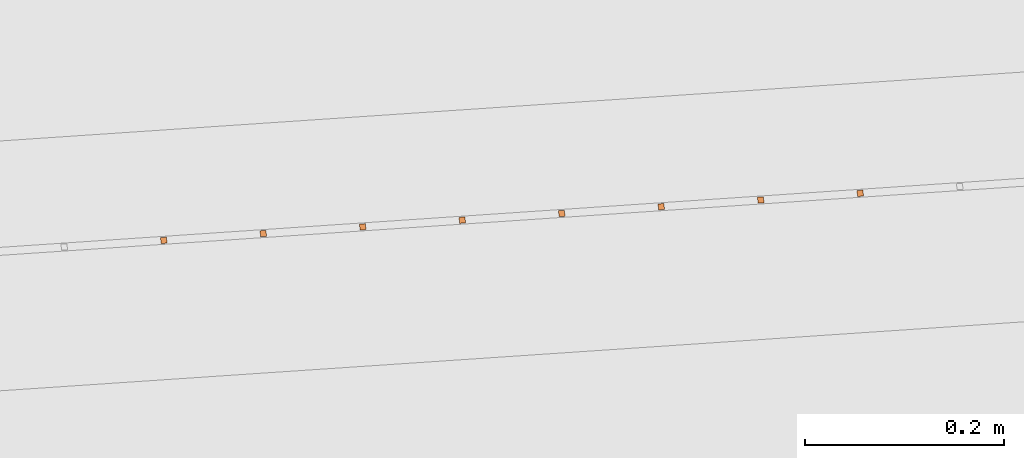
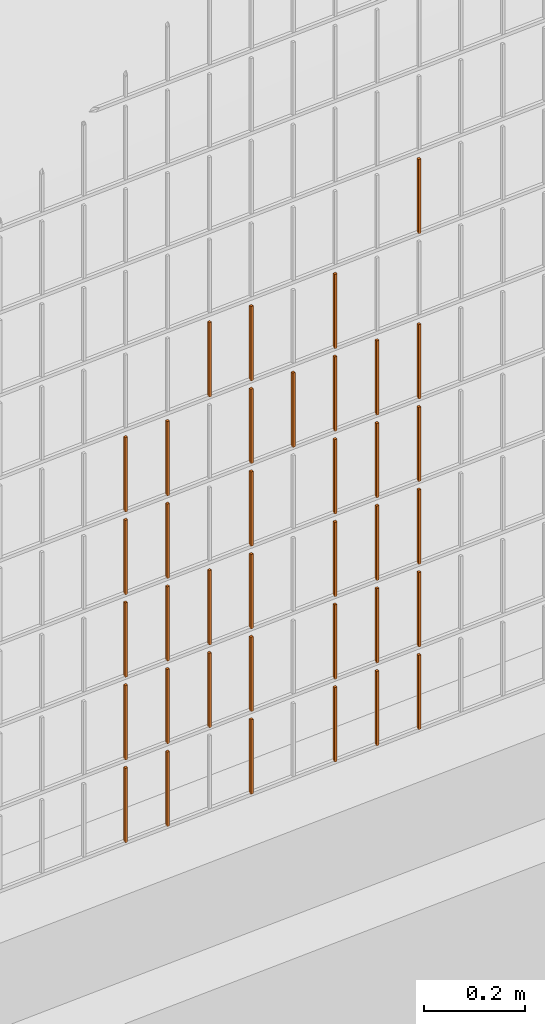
# One storey, part 205 of 1809: 37 proxies, 1 element without a shape of its own.
"""IFC2X3 building model written with IfcOpenShell, lengths in millimetres."""

from ifc_helpers import new_model, entity, si_unit, converted_unit, derived_unit, money_unit, direction, frame, origin_with_axes, place, context, subcontext, project, spatial, faceted_brep, source, transform, mapped, material, type_object, element, aggregate, save


model = new_model("IFC2X3")

# Units and contexts
model_context = context("Model", 3, precision=0.01, world=origin_with_axes(), true_north=direction((0.0, 1.0)))
body_context = subcontext(model_context, "Body", "Model", "MODEL_VIEW")
ifc_project = project(units=[si_unit("LENGTHUNIT", "METRE", prefix="MILLI"), si_unit("AREAUNIT", "SQUARE_METRE"), si_unit("VOLUMEUNIT", "CUBIC_METRE"), converted_unit("PLANEANGLEUNIT", "DEGREE", entity("IfcPlaneAngleMeasure", 0.0174532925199), si_unit("PLANEANGLEUNIT", "RADIAN"), dimensions=[0, 0, 0, 0, 0, 0, 0]), si_unit("SOLIDANGLEUNIT", "STERADIAN"), money_unit("EUR"), converted_unit("TIMEUNIT", "Year", entity("IfcTimeMeasure", 31556926.0), si_unit("TIMEUNIT", "SECOND"), dimensions=[0, 0, 1, 0, 0, 0, 0]), si_unit("MASSUNIT", "GRAM", prefix="KILO"), si_unit("THERMODYNAMICTEMPERATUREUNIT", "DEGREE_CELSIUS"), si_unit("LUMINOUSINTENSITYUNIT", "LUMEN"), si_unit("ENERGYUNIT", "JOULE", prefix="MEGA"), derived_unit("THERMALCONDUCTANCEUNIT", [(si_unit("POWERUNIT", "WATT"), 1), (si_unit("LENGTHUNIT", "METRE"), -1), (si_unit("THERMODYNAMICTEMPERATUREUNIT", "KELVIN"), -1)]), derived_unit("SPECIFICHEATCAPACITYUNIT", [(si_unit("ENERGYUNIT", "JOULE"), 1), (si_unit("MASSUNIT", "GRAM", prefix="KILO"), -1), (si_unit("THERMODYNAMICTEMPERATUREUNIT", "KELVIN"), -1)]), derived_unit("MASSDENSITYUNIT", [(si_unit("MASSUNIT", "GRAM", prefix="KILO"), 1), (si_unit("VOLUMEUNIT", "CUBIC_METRE"), -1)])], contexts=[model_context])

# Site, building, storey
site_placement = place(None, origin_with_axes())
site = spatial("IfcSite", under=ifc_project, at=site_placement, Name="Politse- ja Piirivalveameti ning Päästeameti ühishoone", CompositionType="ELEMENT")
building_placement = place(site_placement, origin_with_axes())
building = spatial("IfcBuilding", under=site, at=building_placement, Name="Politse- ja Piirivalveameti ning Päästeameti ühishoone", CompositionType="ELEMENT")
storey_placement = place(building_placement, origin_with_axes())
storey = spatial("IfcBuildingStorey", under=building, at=storey_placement, Name="Esimene korrus", CompositionType="ELEMENT", Elevation=0.0)

# Proxies
building_element_proxy_type_1 = type_object("IfcBuildingElementProxyType", Name="Railing Type", PredefinedType="NOTDEFINED")
proxy_1_placement = place(storey_placement, frame((89252.001212, -29183.4766571, 203.661247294), z_axis=(0.0, 0.0, 1.0), x_axis=(1.0, 0.0, 0.0)))
proxy_1 = element("IfcBuildingElementProxy", 1, at=proxy_1_placement, inside=storey, type_object=building_element_proxy_type_1, Name="PIIRDEAED")
ifc_material = material(Name="ET-03_Raud")
building_element_proxy_type_2 = type_object("IfcBuildingElementProxyType", Name="IfcBuildingElementProxy", PredefinedType="NOTDEFINED")
shared_shape_1 = source(origin_with_axes(), body_context, "Body", "Brep", [
    faceted_brep([(3.0, 3.0, -0.000752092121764), (-3.0, 3.0, -0.000752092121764), (-3.0, 3.0, 179.99926046), (3.0, 3.0, 179.99926046), (3.0, -3.0, 0.000752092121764), (-3.0, -3.0, 0.000752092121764), (-3.0, -3.0, 180.000764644), (3.0, -3.0, 180.000764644)], [[[0, 1, 2, 3]], [[0, 4, 5, 1]], [[1, 5, 6, 2]], [[3, 2, 6, 7]], [[4, 0, 3, 7]], [[5, 4, 7, 6]]]),
])
proxy_2_placement = place(proxy_1_placement, frame((-63282.489312, -21572.2680951, 11.3334813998), z_axis=(0.0, 0.0, 1.0), x_axis=(1.0, 0.0, 0.0)))
proxy_2 = element("IfcBuildingElementProxy", 2, at=proxy_2_placement, type_object=building_element_proxy_type_2, material=ifc_material, Name="BALUSTER - 001", context=body_context, shape_type="MappedRepresentation", body=[
    mapped(shared_shape_1, transform((0.0, 0.0, 0.0), x_axis=(-0.0673926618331, 0.997726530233, 0.0), y_axis=(-0.997726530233, -0.0673926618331, 0.0), z_axis=(0.0, 0.0, 1.0))),
])
shared_shape_2 = source(origin_with_axes(), body_context, "Body", "Brep", [
    faceted_brep([(3.0, 3.0, -0.000752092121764), (-3.0, 3.0, -0.000752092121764), (-3.0, 3.0, 179.99926046), (3.0, 3.0, 179.99926046), (3.0, -3.0, 0.000752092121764), (-3.0, -3.0, 0.000752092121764), (-3.0, -3.0, 180.000764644), (3.0, -3.0, 180.000764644)], [[[0, 1, 2, 3]], [[0, 4, 5, 1]], [[1, 5, 6, 2]], [[3, 2, 6, 7]], [[4, 0, 3, 7]], [[5, 4, 7, 6]]]),
])
proxy_3_placement = place(proxy_1_placement, frame((-63282.489312, -21572.2680951, 211.3334814), z_axis=(0.0, 0.0, 1.0), x_axis=(1.0, 0.0, 0.0)))
proxy_3 = element("IfcBuildingElementProxy", 3, at=proxy_3_placement, type_object=building_element_proxy_type_2, material=ifc_material, Name="BALUSTER - 001", context=body_context, shape_type="MappedRepresentation", body=[
    mapped(shared_shape_2, transform((0.0, 0.0, 0.0), x_axis=(-0.0673926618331, 0.997726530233, 0.0), y_axis=(-0.997726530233, -0.0673926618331, 0.0), z_axis=(0.0, 0.0, 1.0))),
])
proxy_4_placement = place(proxy_1_placement, frame((-63282.489312, -21572.2680951, 411.3334814), z_axis=(0.0, 0.0, 1.0), x_axis=(1.0, 0.0, 0.0)))
proxy_4 = element("IfcBuildingElementProxy", 4, at=proxy_4_placement, type_object=building_element_proxy_type_2, material=ifc_material, Name="BALUSTER - 001", context=body_context, shape_type="MappedRepresentation", body=[
    mapped(shared_shape_2, transform((0.0, 0.0, 0.0), x_axis=(-0.0673926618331, 0.997726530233, 0.0), y_axis=(-0.997726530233, -0.0673926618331, 0.0), z_axis=(0.0, 0.0, 1.0))),
])
proxy_5_placement = place(proxy_1_placement, frame((-63282.489312, -21572.2680951, 611.3334814), z_axis=(0.0, 0.0, 1.0), x_axis=(1.0, 0.0, 0.0)))
proxy_5 = element("IfcBuildingElementProxy", 5, at=proxy_5_placement, type_object=building_element_proxy_type_2, material=ifc_material, Name="BALUSTER - 001", context=body_context, shape_type="MappedRepresentation", body=[
    mapped(shared_shape_2, transform((0.0, 0.0, 0.0), x_axis=(-0.0673926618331, 0.997726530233, 0.0), y_axis=(-0.997726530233, -0.0673926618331, 0.0), z_axis=(0.0, 0.0, 1.0))),
])
shared_shape_3 = source(origin_with_axes(), body_context, "Body", "Brep", [
    faceted_brep([(3.0, 3.0, -0.000752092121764), (-3.0, 3.0, -0.000752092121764), (-3.0, 3.0, 179.99926046), (3.0, 3.0, 179.99926046), (3.0, -3.0, 0.000752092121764), (-3.0, -3.0, 0.000752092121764), (-3.0, -3.0, 180.000764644), (3.0, -3.0, 180.000764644)], [[[0, 1, 2, 3]], [[0, 4, 5, 1]], [[1, 5, 6, 2]], [[3, 2, 6, 7]], [[4, 0, 3, 7]], [[5, 4, 7, 6]]]),
])
proxy_6_placement = place(proxy_1_placement, frame((-63282.489312, -21572.2680951, 811.3334814), z_axis=(0.0, 0.0, 1.0), x_axis=(1.0, 0.0, 0.0)))
proxy_6 = element("IfcBuildingElementProxy", 6, at=proxy_6_placement, type_object=building_element_proxy_type_2, material=ifc_material, Name="BALUSTER - 001", context=body_context, shape_type="MappedRepresentation", body=[
    mapped(shared_shape_3, transform((0.0, 0.0, 0.0), x_axis=(-0.0673926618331, 0.997726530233, 0.0), y_axis=(-0.997726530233, -0.0673926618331, 0.0), z_axis=(0.0, 0.0, 1.0))),
])
shared_shape_4 = source(origin_with_axes(), body_context, "Body", "Brep", [
    faceted_brep([(3.0, 3.0, -0.000752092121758), (-3.0, 3.0, -0.000752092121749), (-3.00000000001, 3.0, 179.99926046), (2.99999999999, 3.0, 179.99926046), (3.0, -3.0, 0.000752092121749), (-3.0, -3.0, 0.000752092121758), (-3.00000000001, -3.0, 180.000764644), (2.99999999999, -3.0, 180.000764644)], [[[0, 1, 2, 3]], [[0, 4, 5, 1]], [[1, 5, 6, 2]], [[3, 2, 6, 7]], [[4, 0, 3, 7]], [[5, 4, 7, 6]]]),
])
proxy_7_placement = place(proxy_1_placement, frame((-63681.5799241, -21599.2251599, 1011.23320245), z_axis=(0.0, 0.0, 1.0), x_axis=(1.0, 0.0, 0.0)))
proxy_7 = element("IfcBuildingElementProxy", 7, at=proxy_7_placement, type_object=building_element_proxy_type_2, material=ifc_material, Name="BALUSTER - 001", context=body_context, shape_type="MappedRepresentation", body=[
    mapped(shared_shape_4, transform((0.0, 0.0, 0.0), x_axis=(-0.0673926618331, 0.997726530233, 0.0), y_axis=(-0.997726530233, -0.0673926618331, 0.0), z_axis=(0.0, 0.0, 1.0))),
])
shared_shape_5 = source(origin_with_axes(), body_context, "Body", "Brep", [
    faceted_brep([(3.0, 3.0, -0.000752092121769), (-3.0, 3.0, -0.00075209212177), (-3.0, 3.0, 179.99926046), (3.0, 3.0, 179.99926046), (3.0, -3.0, 0.00075209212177), (-3.0, -3.0, 0.000752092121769), (-3.0, -3.0, 180.000764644), (3.0, -3.0, 180.000764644)], [[[0, 1, 2, 3]], [[0, 4, 5, 1]], [[1, 5, 6, 2]], [[3, 2, 6, 7]], [[4, 0, 3, 7]], [[5, 4, 7, 6]]]),
])
proxy_8_placement = place(proxy_1_placement, frame((-63681.5799241, -21599.2251599, 411.23320245), z_axis=(0.0, 0.0, 1.0), x_axis=(1.0, 0.0, 0.0)))
proxy_8 = element("IfcBuildingElementProxy", 8, at=proxy_8_placement, type_object=building_element_proxy_type_2, material=ifc_material, Name="BALUSTER - 001", context=body_context, shape_type="MappedRepresentation", body=[
    mapped(shared_shape_5, transform((0.0, 0.0, 0.0), x_axis=(-0.0673926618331, 0.997726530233, 0.0), y_axis=(-0.997726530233, -0.0673926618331, 0.0), z_axis=(0.0, 0.0, 1.0))),
])
shared_shape_6 = source(origin_with_axes(), body_context, "Body", "Brep", [
    faceted_brep([(3.0, 3.0, -0.000752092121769), (-3.0, 3.0, -0.00075209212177), (-3.0, 3.0, 179.99926046), (3.0, 3.0, 179.99926046), (3.0, -3.0, 0.00075209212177), (-3.0, -3.0, 0.000752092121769), (-3.0, -3.0, 180.000764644), (3.0, -3.0, 180.000764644)], [[[0, 1, 2, 3]], [[0, 4, 5, 1]], [[1, 5, 6, 2]], [[3, 2, 6, 7]], [[4, 0, 3, 7]], [[5, 4, 7, 6]]]),
])
proxy_9_placement = place(proxy_1_placement, frame((-63681.5799241, -21599.2251599, 211.23320245), z_axis=(0.0, 0.0, 1.0), x_axis=(1.0, 0.0, 0.0)))
proxy_9 = element("IfcBuildingElementProxy", 9, at=proxy_9_placement, type_object=building_element_proxy_type_2, material=ifc_material, Name="BALUSTER - 001", context=body_context, shape_type="MappedRepresentation", body=[
    mapped(shared_shape_6, transform((0.0, 0.0, 0.0), x_axis=(-0.0673926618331, 0.997726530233, 0.0), y_axis=(-0.997726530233, -0.0673926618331, 0.0), z_axis=(0.0, 0.0, 1.0))),
])
shared_shape_7 = source(origin_with_axes(), body_context, "Body", "Brep", [
    faceted_brep([(3.0, 3.0, -0.000752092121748), (-3.0, 3.0, -0.00075209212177), (-3.0, 3.0, 179.99926046), (3.0, 3.0, 179.99926046), (3.0, -3.0, 0.00075209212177), (-3.0, -3.0, 0.000752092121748), (-3.0, -3.0, 180.000764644), (3.0, -3.0, 180.000764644)], [[[0, 1, 2, 3]], [[0, 4, 5, 1]], [[1, 5, 6, 2]], [[3, 2, 6, 7]], [[4, 0, 3, 7]], [[5, 4, 7, 6]]]),
])
proxy_10_placement = place(proxy_1_placement, frame((-63382.261965, -21579.0073613, 11.3084116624), z_axis=(0.0, 0.0, 1.0), x_axis=(1.0, 0.0, 0.0)))
proxy_10 = element("IfcBuildingElementProxy", 10, at=proxy_10_placement, type_object=building_element_proxy_type_2, material=ifc_material, Name="BALUSTER - 001", context=body_context, shape_type="MappedRepresentation", body=[
    mapped(shared_shape_7, transform((0.0, 0.0, 0.0), x_axis=(-0.0673926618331, 0.997726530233, 0.0), y_axis=(-0.997726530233, -0.0673926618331, 0.0), z_axis=(0.0, 0.0, 1.0))),
])
shared_shape_8 = source(origin_with_axes(), body_context, "Body", "Brep", [
    faceted_brep([(3.0, 3.0, -0.000752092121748), (-3.0, 3.0, -0.00075209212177), (-3.0, 3.0, 179.99926046), (3.0, 3.0, 179.99926046), (3.0, -3.0, 0.00075209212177), (-3.0, -3.0, 0.000752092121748), (-3.0, -3.0, 180.000764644), (3.0, -3.0, 180.000764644)], [[[0, 1, 2, 3]], [[0, 4, 5, 1]], [[1, 5, 6, 2]], [[3, 2, 6, 7]], [[4, 0, 3, 7]], [[5, 4, 7, 6]]]),
])
proxy_11_placement = place(proxy_1_placement, frame((-63382.261965, -21579.0073613, 611.308411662), z_axis=(0.0, 0.0, 1.0), x_axis=(1.0, 0.0, 0.0)))
proxy_11 = element("IfcBuildingElementProxy", 11, at=proxy_11_placement, type_object=building_element_proxy_type_2, material=ifc_material, Name="BALUSTER - 001", context=body_context, shape_type="MappedRepresentation", body=[
    mapped(shared_shape_8, transform((0.0, 0.0, 0.0), x_axis=(-0.0673926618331, 0.997726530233, 0.0), y_axis=(-0.997726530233, -0.0673926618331, 0.0), z_axis=(0.0, 0.0, 1.0))),
])
shared_shape_9 = source(origin_with_axes(), body_context, "Body", "Brep", [
    faceted_brep([(3.0, 3.0, -0.000752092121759), (-3.0, 3.0, -0.000752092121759), (-3.0, 3.0, 179.99926046), (3.0, 3.0, 179.99926046), (3.0, -3.0, 0.000752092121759), (-3.0, -3.0, 0.000752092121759), (-3.0, -3.0, 180.000764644), (3.0, -3.0, 180.000764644)], [[[0, 1, 2, 3]], [[0, 4, 5, 1]], [[1, 5, 6, 2]], [[3, 2, 6, 7]], [[4, 0, 3, 7]], [[5, 4, 7, 6]]]),
])
proxy_12_placement = place(proxy_1_placement, frame((-63781.3525771, -21605.964426, 211.208132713), z_axis=(0.0, 0.0, 1.0), x_axis=(1.0, 0.0, 0.0)))
proxy_12 = element("IfcBuildingElementProxy", 12, at=proxy_12_placement, type_object=building_element_proxy_type_2, material=ifc_material, Name="BALUSTER - 001", context=body_context, shape_type="MappedRepresentation", body=[
    mapped(shared_shape_9, transform((0.0, 0.0, 0.0), x_axis=(-0.0673926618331, 0.997726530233, 0.0), y_axis=(-0.997726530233, -0.0673926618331, 0.0), z_axis=(0.0, 0.0, 1.0))),
])
proxy_13_placement = place(proxy_1_placement, frame((-63182.7166589, -21565.5288289, 411.358551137), z_axis=(0.0, 0.0, 1.0), x_axis=(1.0, 0.0, 0.0)))
proxy_13 = element("IfcBuildingElementProxy", 13, at=proxy_13_placement, type_object=building_element_proxy_type_2, material=ifc_material, Name="BALUSTER - 001", context=body_context, shape_type="MappedRepresentation", body=[
    mapped(shared_shape_9, transform((0.0, 0.0, 0.0), x_axis=(-0.0673926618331, 0.997726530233, 0.0), y_axis=(-0.997726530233, -0.0673926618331, 0.0), z_axis=(0.0, 0.0, 1.0))),
])
proxy_14_placement = place(proxy_1_placement, frame((-63781.3525771, -21605.964426, 411.208132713), z_axis=(0.0, 0.0, 1.0), x_axis=(1.0, 0.0, 0.0)))
proxy_14 = element("IfcBuildingElementProxy", 14, at=proxy_14_placement, type_object=building_element_proxy_type_2, material=ifc_material, Name="BALUSTER - 001", context=body_context, shape_type="MappedRepresentation", body=[
    mapped(shared_shape_9, transform((0.0, 0.0, 0.0), x_axis=(-0.0673926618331, 0.997726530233, 0.0), y_axis=(-0.997726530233, -0.0673926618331, 0.0), z_axis=(0.0, 0.0, 1.0))),
])
proxy_15_placement = place(proxy_1_placement, frame((-63182.7166589, -21565.5288289, 611.358551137), z_axis=(0.0, 0.0, 1.0), x_axis=(1.0, 0.0, 0.0)))
proxy_15 = element("IfcBuildingElementProxy", 15, at=proxy_15_placement, type_object=building_element_proxy_type_2, material=ifc_material, Name="BALUSTER - 001", context=body_context, shape_type="MappedRepresentation", body=[
    mapped(shared_shape_9, transform((0.0, 0.0, 0.0), x_axis=(-0.0673926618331, 0.997726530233, 0.0), y_axis=(-0.997726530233, -0.0673926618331, 0.0), z_axis=(0.0, 0.0, 1.0))),
])
shared_shape_10 = source(origin_with_axes(), body_context, "Body", "Brep", [
    faceted_brep([(3.0, 3.0, -0.000752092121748), (-3.0, 3.0, -0.00075209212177), (-3.0, 3.0, 179.99926046), (3.0, 3.0, 179.99926046), (3.0, -3.0, 0.00075209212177), (-3.0, -3.0, 0.000752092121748), (-3.0, -3.0, 180.000764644), (3.0, -3.0, 180.000764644)], [[[0, 1, 2, 3]], [[0, 4, 5, 1]], [[1, 5, 6, 2]], [[3, 2, 6, 7]], [[4, 0, 3, 7]], [[5, 4, 7, 6]]]),
])
proxy_16_placement = place(proxy_1_placement, frame((-63382.261965, -21579.0073613, 411.308411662), z_axis=(0.0, 0.0, 1.0), x_axis=(1.0, 0.0, 0.0)))
proxy_16 = element("IfcBuildingElementProxy", 16, at=proxy_16_placement, type_object=building_element_proxy_type_2, material=ifc_material, Name="BALUSTER - 001", context=body_context, shape_type="MappedRepresentation", body=[
    mapped(shared_shape_10, transform((0.0, 0.0, 0.0), x_axis=(-0.0673926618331, 0.997726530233, 0.0), y_axis=(-0.997726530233, -0.0673926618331, 0.0), z_axis=(0.0, 0.0, 1.0))),
])
shared_shape_11 = source(origin_with_axes(), body_context, "Body", "Brep", [
    faceted_brep([(3.0, 3.0, -0.000752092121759), (-3.0, 3.0, -0.000752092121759), (-3.0, 3.0, 179.99926046), (3.0, 3.0, 179.99926046), (3.0, -3.0, 0.000752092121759), (-3.0, -3.0, 0.000752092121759), (-3.0, -3.0, 180.000764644), (3.0, -3.0, 180.000764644)], [[[0, 1, 2, 3]], [[0, 4, 5, 1]], [[1, 5, 6, 2]], [[3, 2, 6, 7]], [[4, 0, 3, 7]], [[5, 4, 7, 6]]]),
])
proxy_17_placement = place(proxy_1_placement, frame((-63182.7166589, -21565.5288289, 811.358551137), z_axis=(0.0, 0.0, 1.0), x_axis=(1.0, 0.0, 0.0)))
proxy_17 = element("IfcBuildingElementProxy", 17, at=proxy_17_placement, type_object=building_element_proxy_type_2, material=ifc_material, Name="BALUSTER - 001", context=body_context, shape_type="MappedRepresentation", body=[
    mapped(shared_shape_11, transform((0.0, 0.0, 0.0), x_axis=(-0.0673926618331, 0.997726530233, 0.0), y_axis=(-0.997726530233, -0.0673926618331, 0.0), z_axis=(0.0, 0.0, 1.0))),
])
shared_shape_12 = source(origin_with_axes(), body_context, "Body", "Brep", [
    faceted_brep([(3.0, 3.0, -0.000752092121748), (-3.0, 3.0, -0.00075209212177), (-3.0, 3.0, 179.99926046), (3.0, 3.0, 179.99926046), (3.0, -3.0, 0.00075209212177), (-3.0, -3.0, 0.000752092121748), (-3.0, -3.0, 180.000764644), (3.0, -3.0, 180.000764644)], [[[0, 1, 2, 3]], [[0, 4, 5, 1]], [[1, 5, 6, 2]], [[3, 2, 6, 7]], [[4, 0, 3, 7]], [[5, 4, 7, 6]]]),
])
proxy_18_placement = place(proxy_1_placement, frame((-63382.261965, -21579.0073613, 811.308411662), z_axis=(0.0, 0.0, 1.0), x_axis=(1.0, 0.0, 0.0)))
proxy_18 = element("IfcBuildingElementProxy", 18, at=proxy_18_placement, type_object=building_element_proxy_type_2, material=ifc_material, Name="BALUSTER - 001", context=body_context, shape_type="MappedRepresentation", body=[
    mapped(shared_shape_12, transform((0.0, 0.0, 0.0), x_axis=(-0.0673926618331, 0.997726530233, 0.0), y_axis=(-0.997726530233, -0.0673926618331, 0.0), z_axis=(0.0, 0.0, 1.0))),
])
shared_shape_13 = source(origin_with_axes(), body_context, "Body", "Brep", [
    faceted_brep([(3.0, 3.0, -0.000752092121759), (-3.0, 3.0, -0.000752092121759), (-3.0, 3.0, 179.99926046), (3.0, 3.0, 179.99926046), (3.0, -3.0, 0.000752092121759), (-3.0, -3.0, 0.000752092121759), (-3.0, -3.0, 180.000764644), (3.0, -3.0, 180.000764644)], [[[0, 1, 2, 3]], [[0, 4, 5, 1]], [[1, 5, 6, 2]], [[3, 2, 6, 7]], [[4, 0, 3, 7]], [[5, 4, 7, 6]]]),
])
proxy_19_placement = place(proxy_1_placement, frame((-63781.3525771, -21605.964426, 811.208132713), z_axis=(0.0, 0.0, 1.0), x_axis=(1.0, 0.0, 0.0)))
proxy_19 = element("IfcBuildingElementProxy", 19, at=proxy_19_placement, type_object=building_element_proxy_type_2, material=ifc_material, Name="BALUSTER - 001", context=body_context, shape_type="MappedRepresentation", body=[
    mapped(shared_shape_13, transform((0.0, 0.0, 0.0), x_axis=(-0.0673926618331, 0.997726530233, 0.0), y_axis=(-0.997726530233, -0.0673926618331, 0.0), z_axis=(0.0, 0.0, 1.0))),
])
shared_shape_14 = source(origin_with_axes(), body_context, "Body", "Brep", [
    faceted_brep([(3.0, 3.0, -0.000752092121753), (-3.0, 3.0, -0.000752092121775), (-3.0, 3.0, 179.99926046), (3.0, 3.0, 179.99926046), (3.0, -3.0, 0.000752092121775), (-3.0, -3.0, 0.000752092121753), (-3.0, -3.0, 180.000764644), (3.0, -3.0, 180.000764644)], [[[0, 1, 2, 3]], [[0, 4, 5, 1]], [[1, 5, 6, 2]], [[3, 2, 6, 7]], [[4, 0, 3, 7]], [[5, 4, 7, 6]]]),
])
proxy_20_placement = place(proxy_1_placement, frame((-63581.807271, -21592.4858937, 11.2582721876), z_axis=(0.0, 0.0, 1.0), x_axis=(1.0, 0.0, 0.0)))
proxy_20 = element("IfcBuildingElementProxy", 20, at=proxy_20_placement, type_object=building_element_proxy_type_2, material=ifc_material, Name="BALUSTER - 001", context=body_context, shape_type="MappedRepresentation", body=[
    mapped(shared_shape_14, transform((0.0, 0.0, 0.0), x_axis=(-0.0673926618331, 0.997726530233, 0.0), y_axis=(-0.997726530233, -0.0673926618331, 0.0), z_axis=(0.0, 0.0, 1.0))),
])
proxy_21_placement = place(proxy_1_placement, frame((-63881.1252301, -21612.7036922, 11.1830629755), z_axis=(0.0, 0.0, 1.0), x_axis=(1.0, 0.0, 0.0)))
proxy_21 = element("IfcBuildingElementProxy", 21, at=proxy_21_placement, type_object=building_element_proxy_type_2, material=ifc_material, Name="BALUSTER - 001", context=body_context, shape_type="MappedRepresentation", body=[
    mapped(shared_shape_14, transform((0.0, 0.0, 0.0), x_axis=(-0.0673926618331, 0.997726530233, 0.0), y_axis=(-0.997726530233, -0.0673926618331, 0.0), z_axis=(0.0, 0.0, 1.0))),
])
proxy_22_placement = place(proxy_1_placement, frame((-63581.807271, -21592.4858937, 211.258272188), z_axis=(0.0, 0.0, 1.0), x_axis=(1.0, 0.0, 0.0)))
proxy_22 = element("IfcBuildingElementProxy", 22, at=proxy_22_placement, type_object=building_element_proxy_type_2, material=ifc_material, Name="BALUSTER - 001", context=body_context, shape_type="MappedRepresentation", body=[
    mapped(shared_shape_14, transform((0.0, 0.0, 0.0), x_axis=(-0.0673926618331, 0.997726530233, 0.0), y_axis=(-0.997726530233, -0.0673926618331, 0.0), z_axis=(0.0, 0.0, 1.0))),
])
shared_shape_15 = source(origin_with_axes(), body_context, "Body", "Brep", [
    faceted_brep([(3.0, 3.0, -0.000752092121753), (-3.0, 3.0, -0.000752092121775), (-3.0, 3.0, 179.99926046), (3.0, 3.0, 179.99926046), (3.0, -3.0, 0.000752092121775), (-3.0, -3.0, 0.000752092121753), (-3.0, -3.0, 180.000764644), (3.0, -3.0, 180.000764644)], [[[0, 1, 2, 3]], [[0, 4, 5, 1]], [[1, 5, 6, 2]], [[3, 2, 6, 7]], [[4, 0, 3, 7]], [[5, 4, 7, 6]]]),
])
proxy_23_placement = place(proxy_1_placement, frame((-63881.1252301, -21612.7036922, 211.183062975), z_axis=(0.0, 0.0, 1.0), x_axis=(1.0, 0.0, 0.0)))
proxy_23 = element("IfcBuildingElementProxy", 23, at=proxy_23_placement, type_object=building_element_proxy_type_2, material=ifc_material, Name="BALUSTER - 001", context=body_context, shape_type="MappedRepresentation", body=[
    mapped(shared_shape_15, transform((0.0, 0.0, 0.0), x_axis=(-0.0673926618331, 0.997726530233, 0.0), y_axis=(-0.997726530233, -0.0673926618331, 0.0), z_axis=(0.0, 0.0, 1.0))),
])
shared_shape_16 = source(origin_with_axes(), body_context, "Body", "Brep", [
    faceted_brep([(3.0, 3.0, -0.000752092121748), (-3.0, 3.0, -0.00075209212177), (-3.0, 3.0, 179.99926046), (3.0, 3.0, 179.99926046), (3.0, -3.0, 0.00075209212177), (-3.0, -3.0, 0.000752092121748), (-3.0, -3.0, 180.000764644), (3.0, -3.0, 180.000764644)], [[[0, 1, 2, 3]], [[0, 4, 5, 1]], [[1, 5, 6, 2]], [[3, 2, 6, 7]], [[4, 0, 3, 7]], [[5, 4, 7, 6]]]),
])
proxy_24_placement = place(proxy_1_placement, frame((-63382.261965, -21579.0073613, 211.308411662), z_axis=(0.0, 0.0, 1.0), x_axis=(1.0, 0.0, 0.0)))
proxy_24 = element("IfcBuildingElementProxy", 24, at=proxy_24_placement, type_object=building_element_proxy_type_2, material=ifc_material, Name="BALUSTER - 001", context=body_context, shape_type="MappedRepresentation", body=[
    mapped(shared_shape_16, transform((0.0, 0.0, 0.0), x_axis=(-0.0673926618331, 0.997726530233, 0.0), y_axis=(-0.997726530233, -0.0673926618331, 0.0), z_axis=(0.0, 0.0, 1.0))),
])
shared_shape_17 = source(origin_with_axes(), body_context, "Body", "Brep", [
    faceted_brep([(3.0, 3.0, -0.000752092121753), (-3.0, 3.0, -0.000752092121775), (-3.0, 3.0, 179.99926046), (3.0, 3.0, 179.99926046), (3.0, -3.0, 0.000752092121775), (-3.0, -3.0, 0.000752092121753), (-3.0, -3.0, 180.000764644), (3.0, -3.0, 180.000764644)], [[[0, 1, 2, 3]], [[0, 4, 5, 1]], [[1, 5, 6, 2]], [[3, 2, 6, 7]], [[4, 0, 3, 7]], [[5, 4, 7, 6]]]),
])
proxy_25_placement = place(proxy_1_placement, frame((-63581.807271, -21592.4858937, 411.258272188), z_axis=(0.0, 0.0, 1.0), x_axis=(1.0, 0.0, 0.0)))
proxy_25 = element("IfcBuildingElementProxy", 25, at=proxy_25_placement, type_object=building_element_proxy_type_2, material=ifc_material, Name="BALUSTER - 001", context=body_context, shape_type="MappedRepresentation", body=[
    mapped(shared_shape_17, transform((0.0, 0.0, 0.0), x_axis=(-0.0673926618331, 0.997726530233, 0.0), y_axis=(-0.997726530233, -0.0673926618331, 0.0), z_axis=(0.0, 0.0, 1.0))),
])
proxy_26_placement = place(proxy_1_placement, frame((-63881.1252301, -21612.7036922, 411.183062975), z_axis=(0.0, 0.0, 1.0), x_axis=(1.0, 0.0, 0.0)))
proxy_26 = element("IfcBuildingElementProxy", 26, at=proxy_26_placement, type_object=building_element_proxy_type_2, material=ifc_material, Name="BALUSTER - 001", context=body_context, shape_type="MappedRepresentation", body=[
    mapped(shared_shape_17, transform((0.0, 0.0, 0.0), x_axis=(-0.0673926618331, 0.997726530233, 0.0), y_axis=(-0.997726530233, -0.0673926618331, 0.0), z_axis=(0.0, 0.0, 1.0))),
])
proxy_27_placement = place(proxy_1_placement, frame((-63881.1252301, -21612.7036922, 611.183062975), z_axis=(0.0, 0.0, 1.0), x_axis=(1.0, 0.0, 0.0)))
proxy_27 = element("IfcBuildingElementProxy", 27, at=proxy_27_placement, type_object=building_element_proxy_type_2, material=ifc_material, Name="BALUSTER - 001", context=body_context, shape_type="MappedRepresentation", body=[
    mapped(shared_shape_17, transform((0.0, 0.0, 0.0), x_axis=(-0.0673926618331, 0.997726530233, 0.0), y_axis=(-0.997726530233, -0.0673926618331, 0.0), z_axis=(0.0, 0.0, 1.0))),
])
shared_shape_18 = source(origin_with_axes(), body_context, "Body", "Brep", [
    faceted_brep([(3.0, 3.0, -0.000752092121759), (-3.0, 3.0, -0.000752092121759), (-3.0, 3.0, 179.99926046), (3.0, 3.0, 179.99926046), (3.0, -3.0, 0.000752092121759), (-3.0, -3.0, 0.000752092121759), (-3.0, -3.0, 180.000764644), (3.0, -3.0, 180.000764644)], [[[0, 1, 2, 3]], [[0, 4, 5, 1]], [[1, 5, 6, 2]], [[3, 2, 6, 7]], [[4, 0, 3, 7]], [[5, 4, 7, 6]]]),
])
proxy_28_placement = place(proxy_1_placement, frame((-63182.7166589, -21565.5288289, 211.358551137), z_axis=(0.0, 0.0, 1.0), x_axis=(1.0, 0.0, 0.0)))
proxy_28 = element("IfcBuildingElementProxy", 28, at=proxy_28_placement, type_object=building_element_proxy_type_2, material=ifc_material, Name="BALUSTER - 001", context=body_context, shape_type="MappedRepresentation", body=[
    mapped(shared_shape_18, transform((0.0, 0.0, 0.0), x_axis=(-0.0673926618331, 0.997726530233, 0.0), y_axis=(-0.997726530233, -0.0673926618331, 0.0), z_axis=(0.0, 0.0, 1.0))),
])
proxy_29_placement = place(proxy_1_placement, frame((-63781.3525771, -21605.964426, 611.208132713), z_axis=(0.0, 0.0, 1.0), x_axis=(1.0, 0.0, 0.0)))
proxy_29 = element("IfcBuildingElementProxy", 29, at=proxy_29_placement, type_object=building_element_proxy_type_2, material=ifc_material, Name="BALUSTER - 001", context=body_context, shape_type="MappedRepresentation", body=[
    mapped(shared_shape_18, transform((0.0, 0.0, 0.0), x_axis=(-0.0673926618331, 0.997726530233, 0.0), y_axis=(-0.997726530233, -0.0673926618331, 0.0), z_axis=(0.0, 0.0, 1.0))),
])
shared_shape_19 = source(origin_with_axes(), body_context, "Body", "Brep", [
    faceted_brep([(3.0, 3.0, -0.000752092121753), (-3.0, 3.0, -0.000752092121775), (-3.0, 3.0, 179.99926046), (3.0, 3.0, 179.99926046), (3.0, -3.0, 0.000752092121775), (-3.0, -3.0, 0.000752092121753), (-3.0, -3.0, 180.000764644), (3.0, -3.0, 180.000764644)], [[[0, 1, 2, 3]], [[0, 4, 5, 1]], [[1, 5, 6, 2]], [[3, 2, 6, 7]], [[4, 0, 3, 7]], [[5, 4, 7, 6]]]),
])
proxy_30_placement = place(proxy_1_placement, frame((-63581.807271, -21592.4858937, 611.258272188), z_axis=(0.0, 0.0, 1.0), x_axis=(1.0, 0.0, 0.0)))
proxy_30 = element("IfcBuildingElementProxy", 30, at=proxy_30_placement, type_object=building_element_proxy_type_2, material=ifc_material, Name="BALUSTER - 001", context=body_context, shape_type="MappedRepresentation", body=[
    mapped(shared_shape_19, transform((0.0, 0.0, 0.0), x_axis=(-0.0673926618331, 0.997726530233, 0.0), y_axis=(-0.997726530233, -0.0673926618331, 0.0), z_axis=(0.0, 0.0, 1.0))),
])
proxy_31_placement = place(proxy_1_placement, frame((-63581.807271, -21592.4858937, 811.258272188), z_axis=(0.0, 0.0, 1.0), x_axis=(1.0, 0.0, 0.0)))
proxy_31 = element("IfcBuildingElementProxy", 31, at=proxy_31_placement, type_object=building_element_proxy_type_2, material=ifc_material, Name="BALUSTER - 001", context=body_context, shape_type="MappedRepresentation", body=[
    mapped(shared_shape_19, transform((0.0, 0.0, 0.0), x_axis=(-0.0673926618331, 0.997726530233, 0.0), y_axis=(-0.997726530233, -0.0673926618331, 0.0), z_axis=(0.0, 0.0, 1.0))),
])
proxy_32_placement = place(proxy_1_placement, frame((-63881.1252301, -21612.7036922, 811.183062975), z_axis=(0.0, 0.0, 1.0), x_axis=(1.0, 0.0, 0.0)))
proxy_32 = element("IfcBuildingElementProxy", 32, at=proxy_32_placement, type_object=building_element_proxy_type_2, material=ifc_material, Name="BALUSTER - 001", context=body_context, shape_type="MappedRepresentation", body=[
    mapped(shared_shape_19, transform((0.0, 0.0, 0.0), x_axis=(-0.0673926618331, 0.997726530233, 0.0), y_axis=(-0.997726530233, -0.0673926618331, 0.0), z_axis=(0.0, 0.0, 1.0))),
])
proxy_33_placement = place(proxy_1_placement, frame((-63182.7166589, -21565.5288289, 1211.35855114), z_axis=(0.0, 0.0, 1.0), x_axis=(1.0, 0.0, 0.0)))
proxy_33 = element("IfcBuildingElementProxy", 33, at=proxy_33_placement, type_object=building_element_proxy_type_2, material=ifc_material, Name="BALUSTER - 001", context=body_context, shape_type="MappedRepresentation", body=[
    mapped(shared_shape_19, transform((0.0, 0.0, 0.0), x_axis=(-0.0673926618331, 0.997726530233, 0.0), y_axis=(-0.997726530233, -0.0673926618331, 0.0), z_axis=(0.0, 0.0, 1.0))),
])
shared_shape_20 = source(origin_with_axes(), body_context, "Body", "Brep", [
    faceted_brep([(3.0, 3.0, -0.000752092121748), (-3.0, 3.0, -0.00075209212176), (-3.00000000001, 3.00000000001, 179.99926046), (2.99999999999, 3.00000000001, 179.99926046), (3.0, -3.0, 0.00075209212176), (-3.0, -3.0, 0.000752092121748), (-3.00000000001, -2.99999999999, 180.000764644), (2.99999999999, -2.99999999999, 180.000764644)], [[[0, 1, 2, 3]], [[0, 4, 5, 1]], [[1, 5, 6, 2]], [[3, 2, 6, 7]], [[4, 0, 3, 7]], [[5, 4, 7, 6]]]),
])
proxy_34_placement = place(proxy_1_placement, frame((-63581.807271, -21592.4858937, 1011.25827219), z_axis=(0.0, 0.0, 1.0), x_axis=(1.0, 0.0, 0.0)))
proxy_34 = element("IfcBuildingElementProxy", 34, at=proxy_34_placement, type_object=building_element_proxy_type_2, material=ifc_material, Name="BALUSTER - 001", context=body_context, shape_type="MappedRepresentation", body=[
    mapped(shared_shape_20, transform((0.0, 0.0, 0.0), x_axis=(-0.0673926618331, 0.997726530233, 0.0), y_axis=(-0.997726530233, -0.0673926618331, 0.0), z_axis=(0.0, 0.0, 1.0))),
])
shared_shape_21 = source(origin_with_axes(), body_context, "Body", "Brep", [
    faceted_brep([(3.0, 3.0, -0.000752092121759), (-3.0, 3.0, -0.000752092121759), (-3.0, 3.0, 179.99926046), (3.0, 3.0, 179.99926046), (3.0, -3.0, 0.000752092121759), (-3.0, -3.0, 0.000752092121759), (-3.0, -3.0, 180.000764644), (3.0, -3.0, 180.000764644)], [[[0, 1, 2, 3]], [[0, 4, 5, 1]], [[1, 5, 6, 2]], [[3, 2, 6, 7]], [[4, 0, 3, 7]], [[5, 4, 7, 6]]]),
])
proxy_35_placement = place(proxy_1_placement, frame((-63182.7166589, -21565.5288289, 11.3585511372), z_axis=(0.0, 0.0, 1.0), x_axis=(1.0, 0.0, 0.0)))
proxy_35 = element("IfcBuildingElementProxy", 35, at=proxy_35_placement, type_object=building_element_proxy_type_2, material=ifc_material, Name="BALUSTER - 001", context=body_context, shape_type="MappedRepresentation", body=[
    mapped(shared_shape_21, transform((0.0, 0.0, 0.0), x_axis=(-0.0673926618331, 0.997726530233, 0.0), y_axis=(-0.997726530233, -0.0673926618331, 0.0), z_axis=(0.0, 0.0, 1.0))),
])
proxy_36_placement = place(proxy_1_placement, frame((-63781.3525771, -21605.964426, 11.2081327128), z_axis=(0.0, 0.0, 1.0), x_axis=(1.0, 0.0, 0.0)))
proxy_36 = element("IfcBuildingElementProxy", 36, at=proxy_36_placement, type_object=building_element_proxy_type_2, material=ifc_material, Name="BALUSTER - 001", context=body_context, shape_type="MappedRepresentation", body=[
    mapped(shared_shape_21, transform((0.0, 0.0, 0.0), x_axis=(-0.0673926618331, 0.997726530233, 0.0), y_axis=(-0.997726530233, -0.0673926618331, 0.0), z_axis=(0.0, 0.0, 1.0))),
])
shared_shape_22 = source(origin_with_axes(), body_context, "Body", "Brep", [
    faceted_brep([(3.0, 3.0, -0.000752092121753), (-3.0, 3.0, -0.000752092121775), (-3.0, 3.0, 179.99926046), (3.0, 3.0, 179.99926046), (3.0, -3.0, 0.000752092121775), (-3.0, -3.0, 0.000752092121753), (-3.0, -3.0, 180.000764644), (3.0, -3.0, 180.000764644)], [[[0, 1, 2, 3]], [[0, 4, 5, 1]], [[1, 5, 6, 2]], [[3, 2, 6, 7]], [[4, 0, 3, 7]], [[5, 4, 7, 6]]]),
])
proxy_37_placement = place(proxy_1_placement, frame((-63482.034618, -21585.7466275, 811.283341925), z_axis=(0.0, 0.0, 1.0), x_axis=(1.0, 0.0, 0.0)))
proxy_37 = element("IfcBuildingElementProxy", 37, at=proxy_37_placement, type_object=building_element_proxy_type_2, material=ifc_material, Name="BALUSTER - 001", context=body_context, shape_type="MappedRepresentation", body=[
    mapped(shared_shape_22, transform((0.0, 0.0, 0.0), x_axis=(-0.0673926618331, 0.997726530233, 0.0), y_axis=(-0.997726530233, -0.0673926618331, 0.0), z_axis=(0.0, 0.0, 1.0))),
])
shared_shape_23 = source(origin_with_axes(), body_context, "Body", "Brep", [
    faceted_brep([(3.0, 3.0, -0.000752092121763), (-3.0, 3.0, -0.000752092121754), (-3.00000000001, 3.0, 179.99926046), (2.99999999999, 3.0, 179.99926046), (3.0, -3.0, 0.000752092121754), (-3.0, -3.0, 0.000752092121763), (-3.00000000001, -3.0, 180.000764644), (2.99999999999, -3.0, 180.000764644)], [[[0, 1, 2, 3]], [[0, 4, 5, 1]], [[1, 5, 6, 2]], [[3, 2, 6, 7]], [[4, 0, 3, 7]], [[5, 4, 7, 6]]]),
])
proxy_38_placement = place(proxy_1_placement, frame((-63382.261965, -21579.0073613, 1011.30841166), z_axis=(0.0, 0.0, 1.0), x_axis=(1.0, 0.0, 0.0)))
proxy_38 = element("IfcBuildingElementProxy", 38, at=proxy_38_placement, type_object=building_element_proxy_type_2, material=ifc_material, Name="BALUSTER - 001", context=body_context, shape_type="MappedRepresentation", body=[
    mapped(shared_shape_23, transform((0.0, 0.0, 0.0), x_axis=(-0.0673926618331, 0.997726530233, 0.0), y_axis=(-0.997726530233, -0.0673926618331, 0.0), z_axis=(0.0, 0.0, 1.0))),
])
aggregate(proxy_1, [proxy_35, proxy_2, proxy_10, proxy_20, proxy_36, proxy_21, proxy_28, proxy_3, proxy_24, proxy_22, proxy_9, proxy_12, proxy_23, proxy_13, proxy_4, proxy_16, proxy_25, proxy_8, proxy_14, proxy_26, proxy_15, proxy_5, proxy_11, proxy_30, proxy_29, proxy_27, proxy_17, proxy_6, proxy_18, proxy_37, proxy_31, proxy_19, proxy_32, proxy_38, proxy_34, proxy_7, proxy_33])

save(model, "model.ifc")
